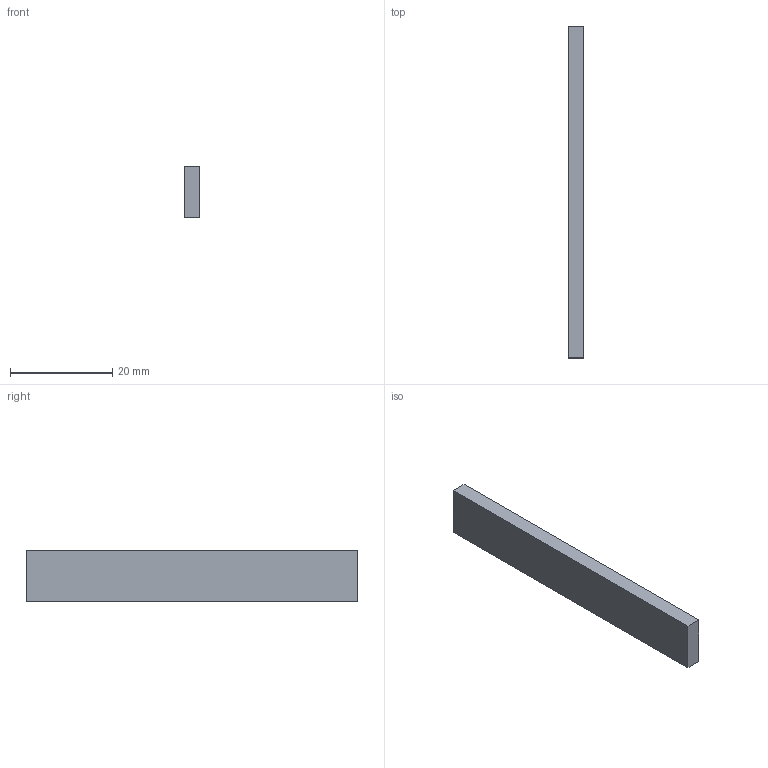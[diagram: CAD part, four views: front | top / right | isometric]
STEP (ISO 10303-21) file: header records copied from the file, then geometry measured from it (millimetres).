
FILE_DESCRIPTION(('FreeCAD Model'),'2;1');
FILE_NAME('Open CASCADE Shape Model','2026-11-06T11:24:15',('FreeCAD'),( 'FreeCAD'),'Open CASCADE STEP processor 7.8','FreeCAD','Unknown');
FILE_SCHEMA(('AUTOMOTIVE_DESIGN { 1 0 10303 214 1 1 1 1 }'));
Length unit declared in the file: millimetre
Products named in the file (1): Open CASCADE STEP translator 7.8 6
Bounding box: 3 x 65 x 10 mm (x, y, z)
Volume: 1950 mm3; surface area: 1750 mm2
Topology: 1 solids, 1 shells, 6 faces, 12 edges, 8 vertices
Faces by surface type: plane 6
Entity records: 166 total; most frequent: CARTESIAN_POINT 27, DIRECTION 26, ORIENTED_EDGE 24, EDGE_CURVE 12, LINE 12, VECTOR 12, VERTEX_POINT 8, AXIS2_PLACEMENT_3D 7
